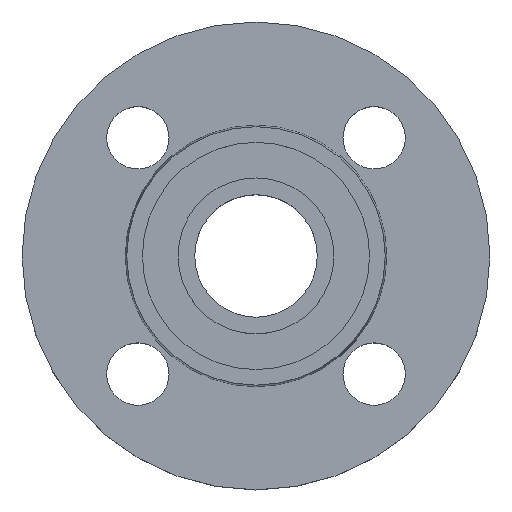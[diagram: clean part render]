
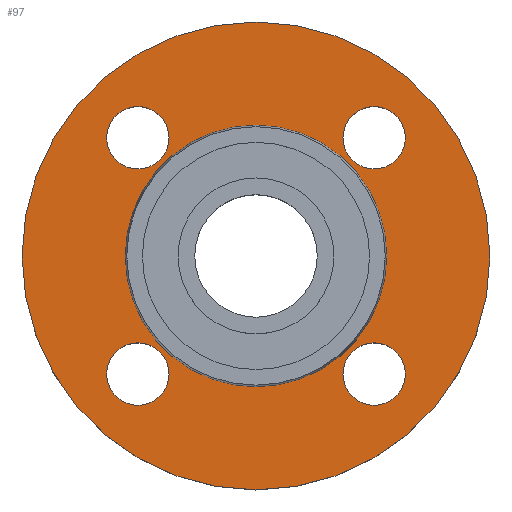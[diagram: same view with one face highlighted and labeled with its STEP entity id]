
A CAD part, top view. The second image highlights one B-rep face of the part: STEP entity #97.
In plain terms, the highlighted planar face has unit normal (0, 0, 1).
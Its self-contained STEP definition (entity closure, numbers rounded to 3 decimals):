
#25 = CARTESIAN_POINT ( 'NONE',  ( -19.517, 26.517, -2. ) ) ;
#26 = CIRCLE ( 'NONE', #76, 7. ) ;
#54 = CARTESIAN_POINT ( 'NONE',  ( 33.517, -26.517, -2. ) ) ;
#73 = EDGE_CURVE ( 'NONE', #506, #617, #298, .T. ) ;
#75 = AXIS2_PLACEMENT_3D ( 'NONE', #155, #167, #162 ) ;
#76 = AXIS2_PLACEMENT_3D ( 'NONE', #372, #377, #378 ) ;
#80 = CARTESIAN_POINT ( 'NONE',  ( 52.5, 0., -2. ) ) ;
#88 = CARTESIAN_POINT ( 'NONE',  ( 33.517, 26.517, -2. ) ) ;
#91 = CARTESIAN_POINT ( 'NONE',  ( -33.517, 26.517, -2. ) ) ;
#97 = ADVANCED_FACE ( 'NONE', ( #805, #806, #807, #808, #809, #811 ), #812, .T. ) ;
#108 = DIRECTION ( 'NONE',  ( 0., 0., -1. ) ) ;
#109 = DIRECTION ( 'NONE',  ( 1., 0., 0. ) ) ;
#110 = CARTESIAN_POINT ( 'NONE',  ( -26.517, -26.517, -2. ) ) ;
#120 = EDGE_CURVE ( 'NONE', #566, #772, #341, .T. ) ;
#131 = CARTESIAN_POINT ( 'NONE',  ( 0., 0., -2. ) ) ;
#135 = DIRECTION ( 'NONE',  ( -1., 0., 0. ) ) ;
#137 = DIRECTION ( 'NONE',  ( 0., 0., -1. ) ) ;
#152 = CIRCLE ( 'NONE', #202, 29.353 ) ;
#154 = DIRECTION ( 'NONE',  ( 0., 0., -1. ) ) ;
#155 = CARTESIAN_POINT ( 'NONE',  ( -26.517, 26.517, -2. ) ) ;
#158 = CARTESIAN_POINT ( 'NONE',  ( -26.517, -26.517, -2. ) ) ;
#162 = DIRECTION ( 'NONE',  ( 1., 0., 0. ) ) ;
#166 = DIRECTION ( 'NONE',  ( 0., 0., -1. ) ) ;
#167 = DIRECTION ( 'NONE',  ( 0., 0., -1. ) ) ;
#181 = AXIS2_PLACEMENT_3D ( 'NONE', #158, #154, #855 ) ;
#202 = AXIS2_PLACEMENT_3D ( 'NONE', #131, #166, #135 ) ;
#211 = EDGE_CURVE ( 'NONE', #787, #788, #880, .T. ) ;
#233 = CARTESIAN_POINT ( 'NONE',  ( -29.353, 0., -2. ) ) ;
#235 = CARTESIAN_POINT ( 'NONE',  ( 29.353, 0., -2. ) ) ;
#255 = EDGE_CURVE ( 'NONE', #510, #674, #466, .T. ) ;
#278 = AXIS2_PLACEMENT_3D ( 'NONE', #816, #818, #819 ) ;
#281 = EDGE_CURVE ( 'NONE', #748, #520, #538, .T. ) ;
#285 = CARTESIAN_POINT ( 'NONE',  ( 19.517, -26.517, -2. ) ) ;
#289 = DIRECTION ( 'NONE',  ( -1., 0., 0. ) ) ;
#290 = DIRECTION ( 'NONE',  ( 0., 0., -1. ) ) ;
#291 = CARTESIAN_POINT ( 'NONE',  ( 0., 0., -2. ) ) ;
#293 = AXIS2_PLACEMENT_3D ( 'NONE', #799, #800, #801 ) ;
#294 = CARTESIAN_POINT ( 'NONE',  ( -52.5, 0., -2. ) ) ;
#298 = CIRCLE ( 'NONE', #293, 7. ) ;
#302 = AXIS2_PLACEMENT_3D ( 'NONE', #110, #108, #109 ) ;
#321 = EDGE_CURVE ( 'NONE', #674, #510, #26, .T. ) ;
#326 = CARTESIAN_POINT ( 'NONE',  ( -19.517, -26.517, -2. ) ) ;
#333 = CARTESIAN_POINT ( 'NONE',  ( 0., 0., -2. ) ) ;
#341 = CIRCLE ( 'NONE', #278, 7. ) ;
#344 = CARTESIAN_POINT ( 'NONE',  ( 26.517, 26.517, -2. ) ) ;
#345 = AXIS2_PLACEMENT_3D ( 'NONE', #476, #137, #473 ) ;
#348 = CARTESIAN_POINT ( 'NONE',  ( -33.517, -26.517, -2. ) ) ;
#352 = DIRECTION ( 'NONE',  ( 0., 0., -1. ) ) ;
#358 = DIRECTION ( 'NONE',  ( 1., 0., 0. ) ) ;
#360 = AXIS2_PLACEMENT_3D ( 'NONE', #813, #814, #815 ) ;
#363 = AXIS2_PLACEMENT_3D ( 'NONE', #291, #290, #289 ) ;
#365 = DIRECTION ( 'NONE',  ( -1., 0., 0. ) ) ;
#366 = DIRECTION ( 'NONE',  ( 0., 0., -1. ) ) ;
#372 = CARTESIAN_POINT ( 'NONE',  ( 26.517, 26.517, -2. ) ) ;
#377 = DIRECTION ( 'NONE',  ( 0., 0., -1. ) ) ;
#378 = DIRECTION ( 'NONE',  ( 1., 0., 0. ) ) ;
#380 = CIRCLE ( 'NONE', #363, 52.5 ) ;
#392 = EDGE_CURVE ( 'NONE', #788, #787, #152, .T. ) ;
#403 = EDGE_CURVE ( 'NONE', #772, #566, #740, .T. ) ;
#406 = CARTESIAN_POINT ( 'NONE',  ( 19.517, 26.517, -2. ) ) ;
#438 = EDGE_CURVE ( 'NONE', #713, #737, #654, .T. ) ;
#446 = EDGE_CURVE ( 'NONE', #617, #506, #472, .T. ) ;
#466 = CIRCLE ( 'NONE', #475, 7. ) ;
#472 = CIRCLE ( 'NONE', #75, 7. ) ;
#473 = DIRECTION ( 'NONE',  ( 1., 0., 0. ) ) ;
#475 = AXIS2_PLACEMENT_3D ( 'NONE', #344, #352, #358 ) ;
#476 = CARTESIAN_POINT ( 'NONE',  ( 26.517, -26.517, -2. ) ) ;
#497 = EDGE_CURVE ( 'NONE', #737, #713, #775, .T. ) ;
#506 = VERTEX_POINT ( 'NONE', #91 ) ;
#509 = EDGE_LOOP ( 'NONE', ( #637, #638 ) ) ;
#510 = VERTEX_POINT ( 'NONE', #88 ) ;
#520 = VERTEX_POINT ( 'NONE', #80 ) ;
#521 = EDGE_LOOP ( 'NONE', ( #632, #633 ) ) ;
#538 = CIRCLE ( 'NONE', #539, 52.5 ) ;
#539 = AXIS2_PLACEMENT_3D ( 'NONE', #333, #366, #365 ) ;
#557 = AXIS2_PLACEMENT_3D ( 'NONE', #872, #876, #878 ) ;
#566 = VERTEX_POINT ( 'NONE', #54 ) ;
#616 = EDGE_LOOP ( 'NONE', ( #627, #628 ) ) ;
#617 = VERTEX_POINT ( 'NONE', #25 ) ;
#625 = ORIENTED_EDGE ( 'NONE', *, *, #120, .T. ) ;
#626 = ORIENTED_EDGE ( 'NONE', *, *, #403, .T. ) ;
#627 = ORIENTED_EDGE ( 'NONE', *, *, #497, .T. ) ;
#628 = ORIENTED_EDGE ( 'NONE', *, *, #438, .T. ) ;
#629 = ORIENTED_EDGE ( 'NONE', *, *, #446, .T. ) ;
#631 = ORIENTED_EDGE ( 'NONE', *, *, #73, .T. ) ;
#632 = ORIENTED_EDGE ( 'NONE', *, *, #255, .T. ) ;
#633 = ORIENTED_EDGE ( 'NONE', *, *, #321, .T. ) ;
#634 = ORIENTED_EDGE ( 'NONE', *, *, #392, .T. ) ;
#635 = ORIENTED_EDGE ( 'NONE', *, *, #211, .T. ) ;
#637 = ORIENTED_EDGE ( 'NONE', *, *, #765, .F. ) ;
#638 = ORIENTED_EDGE ( 'NONE', *, *, #281, .F. ) ;
#654 = CIRCLE ( 'NONE', #181, 7. ) ;
#658 = EDGE_LOOP ( 'NONE', ( #634, #635 ) ) ;
#674 = VERTEX_POINT ( 'NONE', #406 ) ;
#713 = VERTEX_POINT ( 'NONE', #348 ) ;
#719 = EDGE_LOOP ( 'NONE', ( #625, #626 ) ) ;
#737 = VERTEX_POINT ( 'NONE', #326 ) ;
#740 = CIRCLE ( 'NONE', #345, 7. ) ;
#748 = VERTEX_POINT ( 'NONE', #294 ) ;
#765 = EDGE_CURVE ( 'NONE', #520, #748, #380, .T. ) ;
#772 = VERTEX_POINT ( 'NONE', #285 ) ;
#775 = CIRCLE ( 'NONE', #302, 7. ) ;
#776 = EDGE_LOOP ( 'NONE', ( #629, #631 ) ) ;
#787 = VERTEX_POINT ( 'NONE', #235 ) ;
#788 = VERTEX_POINT ( 'NONE', #233 ) ;
#799 = CARTESIAN_POINT ( 'NONE',  ( -26.517, 26.517, -2. ) ) ;
#800 = DIRECTION ( 'NONE',  ( 0., 0., -1. ) ) ;
#801 = DIRECTION ( 'NONE',  ( 1., 0., 0. ) ) ;
#805 = FACE_BOUND ( 'NONE', #719, .T. ) ;
#806 = FACE_BOUND ( 'NONE', #616, .T. ) ;
#807 = FACE_BOUND ( 'NONE', #776, .T. ) ;
#808 = FACE_BOUND ( 'NONE', #521, .T. ) ;
#809 = FACE_BOUND ( 'NONE', #658, .T. ) ;
#811 = FACE_OUTER_BOUND ( 'NONE', #509, .T. ) ;
#812 = PLANE ( 'NONE',  #360 ) ;
#813 = CARTESIAN_POINT ( 'NONE',  ( 29.353, 0., -2. ) ) ;
#814 = DIRECTION ( 'NONE',  ( 0., 0., 1. ) ) ;
#815 = DIRECTION ( 'NONE',  ( 1., 0., 0. ) ) ;
#816 = CARTESIAN_POINT ( 'NONE',  ( 26.517, -26.517, -2. ) ) ;
#818 = DIRECTION ( 'NONE',  ( 0., 0., -1. ) ) ;
#819 = DIRECTION ( 'NONE',  ( 1., 0., 0. ) ) ;
#855 = DIRECTION ( 'NONE',  ( 1., 0., 0. ) ) ;
#872 = CARTESIAN_POINT ( 'NONE',  ( 0., 0., -2. ) ) ;
#876 = DIRECTION ( 'NONE',  ( 0., 0., -1. ) ) ;
#878 = DIRECTION ( 'NONE',  ( -1., 0., 0. ) ) ;
#880 = CIRCLE ( 'NONE', #557, 29.353 ) ;
